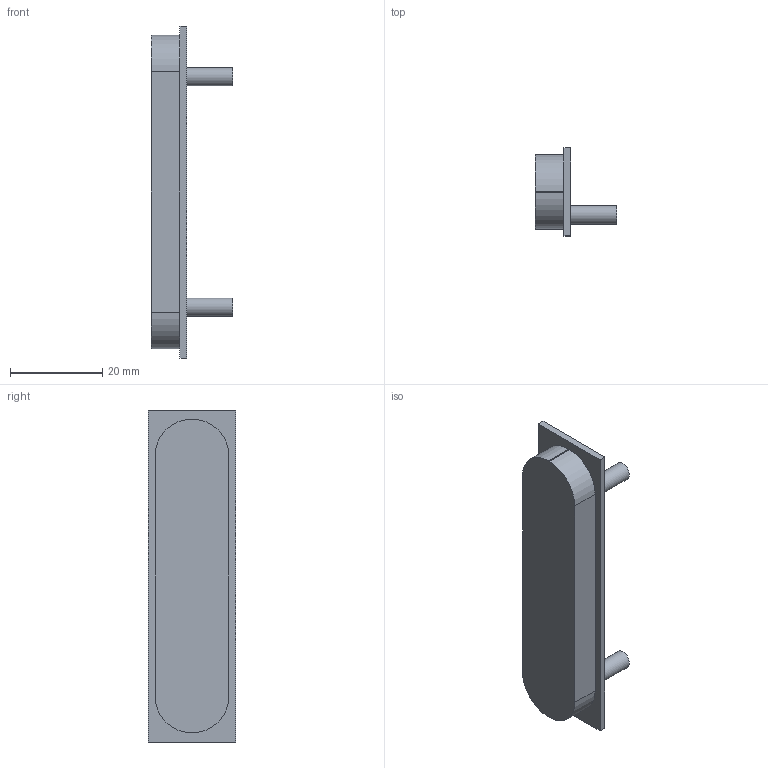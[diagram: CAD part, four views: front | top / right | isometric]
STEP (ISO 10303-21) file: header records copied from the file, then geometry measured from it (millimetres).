
FILE_DESCRIPTION(('Open CASCADE Model'),'2;1');
FILE_NAME('CAP_PTT_GUIDED','2026-09-06T11:49:22',('Author'),( 'Open CASCADE'),'Open CASCADE STEP processor 7.8','build123d', 'Unknown');
FILE_SCHEMA(('AUTOMOTIVE_DESIGN { 1 0 10303 214 1 1 1 1 }'));
Length unit declared in the file: millimetre
Products named in the file (2): =>[0:1:1:2]; CAP_PTT_GUIDED
Assembly tree (1 placements, depth 2):
  =>[0:1:1:2]
    CAP_PTT_GUIDED
Bounding box: 17.75 x 19 x 72 mm (x, y, z)
Volume: 8617 mm3; surface area: 4367.6 mm2
Topology: 1 solids, 1 shells, 37 faces, 78 edges, 52 vertices
Faces by surface type: plane 27, cylinder 10
Full cylindrical faces by diameter (mm): 1.6 x2, 2 x2, 4 x2
Entity records: 2046 total; most frequent: CARTESIAN_POINT 349, DIRECTION 328, LINE 194, VECTOR 194, ORIENTED_EDGE 156, PCURVE 156, DEFINITIONAL_REPRESENTATION 156, EDGE_CURVE 78
